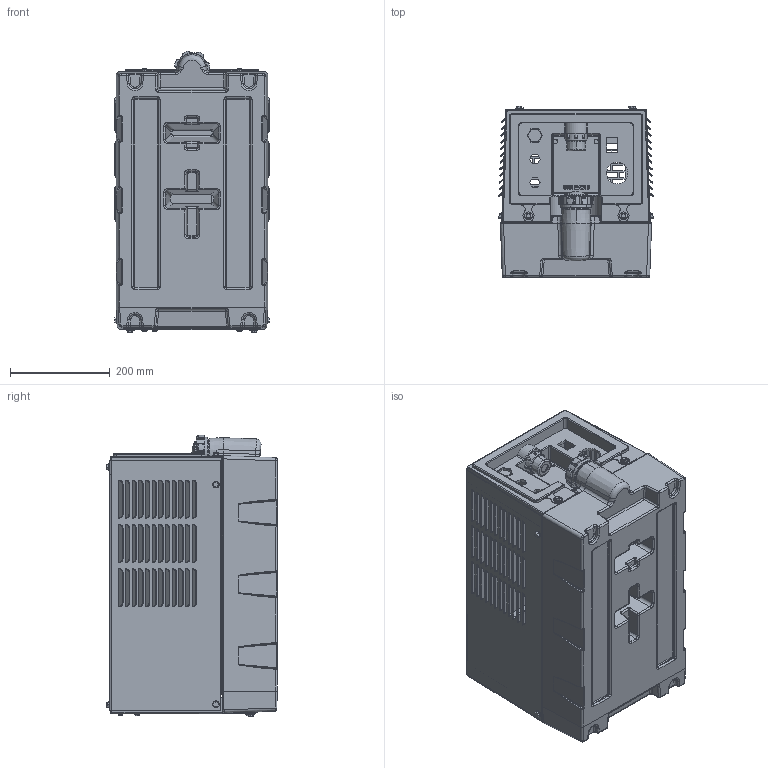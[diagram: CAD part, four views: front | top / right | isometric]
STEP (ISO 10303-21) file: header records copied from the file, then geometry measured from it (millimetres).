
FILE_DESCRIPTION (( 'STEP AP203' ), '1' );
FILE_NAME ('COOLMATE 3 SHELL MODEL.STEP', '2016-02-08T14:17:00', ( '' ), ( '' ), 'SwSTEP 2.0', 'SolidWorks 2015', '' );
FILE_SCHEMA (( 'CONFIG_CONTROL_DESIGN' ));
Length unit declared in the file: inch
Products named in the file (23): 129351; 089799_1; INSERT 1-4_20 HEX; 166562_INSTALLED; 166608; 269910; 602154; FRONT PANEL - 177399 REF; REAR PANEL - 192454 REF; CIRCUIT DIAGRAM; 166564-1; 601834; COOLMATE 3 NAMEPLATE; 239494; 602238; COOLMATE 3 SHELL MODEL; 227026-3; 602203; 166564-4; 082193; 227026; 132729
Assembly tree (47 placements, depth 3):
  COOLMATE 3 SHELL MODEL
    269910
      269910
      INSERT 1-4_20 HEX  x10
    REAR PANEL - 192454 REF
    601834  x3
    602238
    602203
    082193  x4
    132729
    089799_1  x4
    166608
    FRONT PANEL - 177399 REF
    227026
      166564-1
      239494
      227026-3
      166564-4
    129351  x2
    166562_INSTALLED
    602154  x8
    CIRCUIT DIAGRAM
    COOLMATE 3 NAMEPLATE
Bounding box: 309.38 x 342.21 x 564.96 mm (x, y, z)
Volume: 4239565.6 mm3; surface area: 2731852.9 mm2
Topology: 45 solids, 45 shells, 4146 faces, 10521 edges, 6480 vertices
Faces by surface type: plane 1803, cylinder 1115, bspline 660, cone 261, torus 206, sphere 101
Entity records: 182041 total; most frequent: CARTESIAN_POINT 93684, ORIENTED_EDGE 19014, DIRECTION 16188, EDGE_CURVE 9507, VERTEX_POINT 5901, AXIS2_PLACEMENT_3D 5616, VECTOR 4956, LINE 4956
